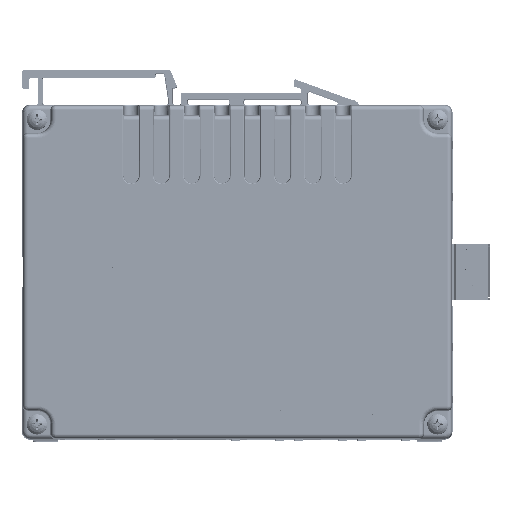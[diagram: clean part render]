
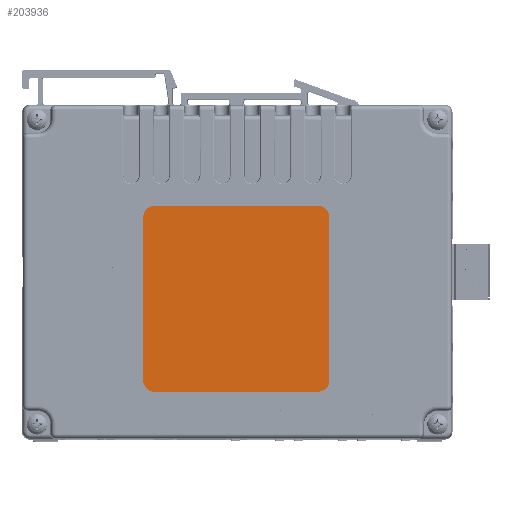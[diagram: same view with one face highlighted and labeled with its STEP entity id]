
A CAD part, top view. The second image highlights one B-rep face of the part: STEP entity #203936.
In plain terms, the highlighted planar face has unit normal (0, 0, 1) as drawn and (0, 1, 0) by its records, which use the part's own axes.
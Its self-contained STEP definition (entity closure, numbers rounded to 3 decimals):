
#5287=CIRCLE('',#218730,3.175);
#5288=CIRCLE('',#218731,3.175);
#5289=CIRCLE('',#218732,3.175);
#5290=CIRCLE('',#218733,3.175);
#13381=PLANE('',#218729);
#72580=ORIENTED_EDGE('',*,*,#102006,.F.);
#72581=ORIENTED_EDGE('',*,*,#102008,.T.);
#72582=ORIENTED_EDGE('',*,*,#102000,.F.);
#72583=ORIENTED_EDGE('',*,*,#102009,.T.);
#72584=ORIENTED_EDGE('',*,*,#101996,.F.);
#72585=ORIENTED_EDGE('',*,*,#102010,.T.);
#72586=ORIENTED_EDGE('',*,*,#101992,.F.);
#72587=ORIENTED_EDGE('',*,*,#102011,.T.);
#101992=EDGE_CURVE('',#121234,#121235,#145034,.T.);
#101996=EDGE_CURVE('',#121238,#121239,#145038,.T.);
#102000=EDGE_CURVE('',#121242,#121243,#145042,.T.);
#102006=EDGE_CURVE('',#121248,#121249,#145048,.T.);
#102008=EDGE_CURVE('',#121248,#121243,#5287,.F.);
#102009=EDGE_CURVE('',#121242,#121239,#5288,.F.);
#102010=EDGE_CURVE('',#121238,#121235,#5289,.F.);
#102011=EDGE_CURVE('',#121234,#121249,#5290,.F.);
#121234=VERTEX_POINT('',#355614);
#121235=VERTEX_POINT('',#355615);
#121238=VERTEX_POINT('',#355623);
#121239=VERTEX_POINT('',#355624);
#121242=VERTEX_POINT('',#355632);
#121243=VERTEX_POINT('',#355633);
#121248=VERTEX_POINT('',#355644);
#121249=VERTEX_POINT('',#355646);
#145034=LINE('',#355613,#168872);
#145038=LINE('',#355622,#168876);
#145042=LINE('',#355631,#168880);
#145048=LINE('',#355645,#168886);
#168872=VECTOR('',#270559,1000.);
#168876=VECTOR('',#270565,1000.);
#168880=VECTOR('',#270571,1000.);
#168886=VECTOR('',#270579,1000.);
#180304=EDGE_LOOP('',(#72580,#72581,#72582,#72583,#72584,#72585,#72586,
#72587));
#191640=FACE_BOUND('',#180304,.T.);
#203936=ADVANCED_FACE('',(#191640),#13381,.F.);
#218729=AXIS2_PLACEMENT_3D('',#355648,#270581,#270582);
#218730=AXIS2_PLACEMENT_3D('',#355649,#270583,#270584);
#218731=AXIS2_PLACEMENT_3D('',#355650,#270585,#270586);
#218732=AXIS2_PLACEMENT_3D('',#355651,#270587,#270588);
#218733=AXIS2_PLACEMENT_3D('',#355652,#270589,#270590);
#270559=DIRECTION('',(0.,0.,-1.));
#270565=DIRECTION('',(1.,0.,0.));
#270571=DIRECTION('',(0.,0.,1.));
#270579=DIRECTION('',(-1.,0.,0.));
#270581=DIRECTION('',(0.,-1.,0.));
#270582=DIRECTION('',(0.,0.,-1.));
#270583=DIRECTION('',(0.,-1.,0.));
#270584=DIRECTION('',(0.,0.,-1.));
#270585=DIRECTION('',(0.,-1.,0.));
#270586=DIRECTION('',(0.,0.,-1.));
#270587=DIRECTION('',(0.,-1.,0.));
#270588=DIRECTION('',(0.,0.,-1.));
#270589=DIRECTION('',(0.,-1.,0.));
#270590=DIRECTION('',(0.,0.,-1.));
#355613=CARTESIAN_POINT('',(-25.4,0.076,25.4));
#355614=CARTESIAN_POINT('',(-25.4,0.076,22.225));
#355615=CARTESIAN_POINT('',(-25.4,0.076,-22.225));
#355622=CARTESIAN_POINT('',(-25.4,0.076,-25.4));
#355623=CARTESIAN_POINT('',(-22.225,0.076,-25.4));
#355624=CARTESIAN_POINT('',(22.225,0.076,-25.4));
#355631=CARTESIAN_POINT('',(25.4,0.076,-25.4));
#355632=CARTESIAN_POINT('',(25.4,0.076,-22.225));
#355633=CARTESIAN_POINT('',(25.4,0.076,22.225));
#355644=CARTESIAN_POINT('',(22.225,0.076,25.4));
#355645=CARTESIAN_POINT('',(25.4,0.076,25.4));
#355646=CARTESIAN_POINT('',(-22.225,0.076,25.4));
#355648=CARTESIAN_POINT('',(0.,0.076,0.));
#355649=CARTESIAN_POINT('',(22.225,0.076,22.225));
#355650=CARTESIAN_POINT('',(22.225,0.076,-22.225));
#355651=CARTESIAN_POINT('',(-22.225,0.076,-22.225));
#355652=CARTESIAN_POINT('',(-22.225,0.076,22.225));
